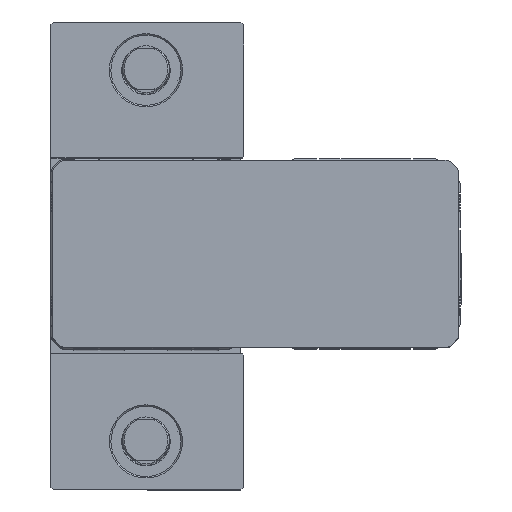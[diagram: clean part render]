
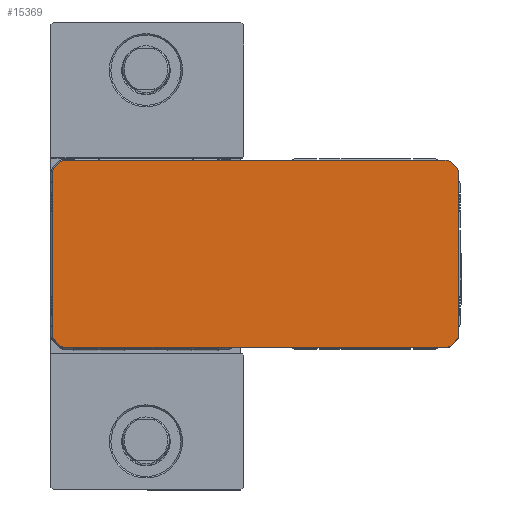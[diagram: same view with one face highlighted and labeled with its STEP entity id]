
A CAD part, top view. The second image highlights one B-rep face of the part: STEP entity #15369.
In plain terms, the highlighted planar face has unit normal (0, 0, 1).
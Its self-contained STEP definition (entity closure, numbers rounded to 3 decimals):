
#18 = LINE ( 'NONE', #3509, #16763 ) ;
#86 = EDGE_CURVE ( 'NONE', #1575, #42367, #3012, .T. ) ;
#681 = VECTOR ( 'NONE', #32685, 1000. ) ;
#783 = VERTEX_POINT ( 'NONE', #16246 ) ;
#801 = AXIS2_PLACEMENT_3D ( 'NONE', #23527, #2288, #27008 ) ;
#1082 = AXIS2_PLACEMENT_3D ( 'NONE', #8603, #8501, #8546 ) ;
#1575 = VERTEX_POINT ( 'NONE', #33461 ) ;
#1695 = DIRECTION ( 'NONE',  ( 0., 0., 1. ) ) ;
#2261 = DIRECTION ( 'NONE',  ( 0., -1., 0. ) ) ;
#2288 = DIRECTION ( 'NONE',  ( 0., 0., 1. ) ) ;
#3012 = CIRCLE ( 'NONE', #15297, 1.5 ) ;
#3509 = CARTESIAN_POINT ( 'NONE',  ( -31.561, -29.061, 394. ) ) ;
#3548 = EDGE_CURVE ( 'NONE', #3619, #12911, #21417, .T. ) ;
#3619 = VERTEX_POINT ( 'NONE', #4925 ) ;
#3734 = PLANE ( 'NONE',  #39313 ) ;
#4381 = ORIENTED_EDGE ( 'NONE', *, *, #12535, .T. ) ;
#4891 = VERTEX_POINT ( 'NONE', #13740 ) ;
#4925 = CARTESIAN_POINT ( 'NONE',  ( 107., 28., 394. ) ) ;
#5457 = DIRECTION ( 'NONE',  ( 1., 0., 0. ) ) ;
#5558 = DIRECTION ( 'NONE',  ( 0., 0., 1. ) ) ;
#5608 = CARTESIAN_POINT ( 'NONE',  ( -32., -28., 394. ) ) ;
#5615 = CARTESIAN_POINT ( 'NONE',  ( -28., 30.5, 394. ) ) ;
#5744 = EDGE_CURVE ( 'NONE', #11132, #19936, #17910, .T. ) ;
#5766 = CARTESIAN_POINT ( 'NONE',  ( 106.561, 29.061, 394. ) ) ;
#6290 = EDGE_CURVE ( 'NONE', #14093, #37704, #41189, .T. ) ;
#6797 = VERTEX_POINT ( 'NONE', #30756 ) ;
#6855 = AXIS2_PLACEMENT_3D ( 'NONE', #22951, #1695, #26432 ) ;
#7352 = DIRECTION ( 'NONE',  ( 1., 0., 0. ) ) ;
#7369 = DIRECTION ( 'NONE',  ( 1., 0., 0. ) ) ;
#7441 = CARTESIAN_POINT ( 'NONE',  ( -29.061, 31.561, 394. ) ) ;
#7502 = DIRECTION ( 'NONE',  ( 0., 0., 1. ) ) ;
#7595 = CARTESIAN_POINT ( 'NONE',  ( 103., -30.5, 394. ) ) ;
#7786 = VECTOR ( 'NONE', #8265, 1000. ) ;
#7812 = CARTESIAN_POINT ( 'NONE',  ( -30.5, -28., 394. ) ) ;
#8265 = DIRECTION ( 'NONE',  ( 0., 1., 0. ) ) ;
#8479 = ORIENTED_EDGE ( 'NONE', *, *, #3548, .T. ) ;
#8501 = DIRECTION ( 'NONE',  ( 0., 0., 1. ) ) ;
#8546 = DIRECTION ( 'NONE',  ( 1., 0., 0. ) ) ;
#8584 = CARTESIAN_POINT ( 'NONE',  ( 104.061, -31.561, 394. ) ) ;
#8603 = CARTESIAN_POINT ( 'NONE',  ( 105.5, 28., 394. ) ) ;
#9060 = CARTESIAN_POINT ( 'NONE',  ( 104.061, -31.561, 394. ) ) ;
#9092 = EDGE_LOOP ( 'NONE', ( #24443, #28965, #18408, #16675, #9683, #12904, #10905, #17298, #8479, #4381, #32750, #43715, #43597, #22090, #14715, #16229 ) ) ;
#9683 = ORIENTED_EDGE ( 'NONE', *, *, #37123, .T. ) ;
#10905 = ORIENTED_EDGE ( 'NONE', *, *, #34447, .T. ) ;
#10953 = LINE ( 'NONE', #16589, #37737 ) ;
#11132 = VERTEX_POINT ( 'NONE', #5608 ) ;
#11189 = DIRECTION ( 'NONE',  ( 1., 0., 0. ) ) ;
#11234 = LINE ( 'NONE', #8584, #37996 ) ;
#11755 = EDGE_CURVE ( 'NONE', #14655, #11132, #10953, .T. ) ;
#11932 = VERTEX_POINT ( 'NONE', #34857 ) ;
#12190 = EDGE_CURVE ( 'NONE', #11932, #4891, #39855, .T. ) ;
#12273 = FACE_OUTER_BOUND ( 'NONE', #9092, .T. ) ;
#12535 = EDGE_CURVE ( 'NONE', #12911, #11932, #32765, .T. ) ;
#12561 = CARTESIAN_POINT ( 'NONE',  ( 103., 30.5, 394. ) ) ;
#12904 = ORIENTED_EDGE ( 'NONE', *, *, #24291, .T. ) ;
#12911 = VERTEX_POINT ( 'NONE', #5766 ) ;
#13740 = CARTESIAN_POINT ( 'NONE',  ( 103., 32., 394. ) ) ;
#13781 = CIRCLE ( 'NONE', #24115, 1.5 ) ;
#14093 = VERTEX_POINT ( 'NONE', #20024 ) ;
#14626 = CARTESIAN_POINT ( 'NONE',  ( -28., -32., 394. ) ) ;
#14655 = VERTEX_POINT ( 'NONE', #20744 ) ;
#14715 = ORIENTED_EDGE ( 'NONE', *, *, #40403, .T. ) ;
#15291 = CARTESIAN_POINT ( 'NONE',  ( 103., 32., 394. ) ) ;
#15297 = AXIS2_PLACEMENT_3D ( 'NONE', #5615, #5558, #5457 ) ;
#15364 = DIRECTION ( 'NONE',  ( 1., 0., 0. ) ) ;
#15369 = ADVANCED_FACE ( 'NONE', ( #12273 ), #3734, .T. ) ;
#16113 = DIRECTION ( 'NONE',  ( 1., 0., 0. ) ) ;
#16162 = CIRCLE ( 'NONE', #6855, 1.5 ) ;
#16229 = ORIENTED_EDGE ( 'NONE', *, *, #11755, .T. ) ;
#16246 = CARTESIAN_POINT ( 'NONE',  ( -29.061, -31.561, 394. ) ) ;
#16589 = CARTESIAN_POINT ( 'NONE',  ( -32., 28., 394. ) ) ;
#16675 = ORIENTED_EDGE ( 'NONE', *, *, #6290, .T. ) ;
#16763 = VECTOR ( 'NONE', #31709, 1000. ) ;
#17298 = ORIENTED_EDGE ( 'NONE', *, *, #40812, .T. ) ;
#17382 = CIRCLE ( 'NONE', #33218, 1.5 ) ;
#17910 = CIRCLE ( 'NONE', #32599, 1.5 ) ;
#17926 = DIRECTION ( 'NONE',  ( -0.707, 0.707, 0. ) ) ;
#18138 = DIRECTION ( 'NONE',  ( -0.707, -0.707, 0. ) ) ;
#18408 = ORIENTED_EDGE ( 'NONE', *, *, #31353, .T. ) ;
#18563 = VECTOR ( 'NONE', #18138, 1000. ) ;
#18813 = CARTESIAN_POINT ( 'NONE',  ( 107., -28., 394. ) ) ;
#19000 = DIRECTION ( 'NONE',  ( 0., 0., 1. ) ) ;
#19664 = LINE ( 'NONE', #7441, #18563 ) ;
#19936 = VERTEX_POINT ( 'NONE', #38197 ) ;
#20024 = CARTESIAN_POINT ( 'NONE',  ( -28., -32., 394. ) ) ;
#20744 = CARTESIAN_POINT ( 'NONE',  ( -32., 28., 394. ) ) ;
#21417 = CIRCLE ( 'NONE', #1082, 1.5 ) ;
#21441 = CARTESIAN_POINT ( 'NONE',  ( 106.561, 29.061, 394. ) ) ;
#22090 = ORIENTED_EDGE ( 'NONE', *, *, #22418, .T. ) ;
#22329 = CARTESIAN_POINT ( 'NONE',  ( 106.561, -29.061, 394. ) ) ;
#22418 = EDGE_CURVE ( 'NONE', #42367, #6797, #19664, .T. ) ;
#22951 = CARTESIAN_POINT ( 'NONE',  ( -30.5, 28., 394. ) ) ;
#23527 = CARTESIAN_POINT ( 'NONE',  ( -28., -30.5, 394. ) ) ;
#24115 = AXIS2_PLACEMENT_3D ( 'NONE', #39784, #19000, #43168 ) ;
#24291 = EDGE_CURVE ( 'NONE', #35022, #31160, #11234, .T. ) ;
#24443 = ORIENTED_EDGE ( 'NONE', *, *, #5744, .T. ) ;
#26432 = DIRECTION ( 'NONE',  ( 1., 0., 0. ) ) ;
#27008 = DIRECTION ( 'NONE',  ( 1., 0., 0. ) ) ;
#27611 = CARTESIAN_POINT ( 'NONE',  ( 107., -28., 394. ) ) ;
#27950 = CARTESIAN_POINT ( 'NONE',  ( -29.061, 31.561, 394. ) ) ;
#28428 = DIRECTION ( 'NONE',  ( 0., 0., 1. ) ) ;
#28965 = ORIENTED_EDGE ( 'NONE', *, *, #39769, .T. ) ;
#30756 = CARTESIAN_POINT ( 'NONE',  ( -31.561, 29.061, 394. ) ) ;
#31160 = VERTEX_POINT ( 'NONE', #22329 ) ;
#31353 = EDGE_CURVE ( 'NONE', #783, #14093, #40388, .T. ) ;
#31709 = DIRECTION ( 'NONE',  ( 0.707, -0.707, 0. ) ) ;
#32159 = DIRECTION ( 'NONE',  ( 0., 0., 1. ) ) ;
#32599 = AXIS2_PLACEMENT_3D ( 'NONE', #7812, #7502, #7352 ) ;
#32667 = EDGE_CURVE ( 'NONE', #4891, #1575, #38089, .T. ) ;
#32685 = DIRECTION ( 'NONE',  ( -1., 0., 0. ) ) ;
#32750 = ORIENTED_EDGE ( 'NONE', *, *, #12190, .T. ) ;
#32765 = LINE ( 'NONE', #21441, #40877 ) ;
#33218 = AXIS2_PLACEMENT_3D ( 'NONE', #7595, #32159, #11189 ) ;
#33461 = CARTESIAN_POINT ( 'NONE',  ( -28., 32., 394. ) ) ;
#34447 = EDGE_CURVE ( 'NONE', #31160, #35194, #13781, .T. ) ;
#34857 = CARTESIAN_POINT ( 'NONE',  ( 104.061, 31.561, 394. ) ) ;
#35022 = VERTEX_POINT ( 'NONE', #9060 ) ;
#35194 = VERTEX_POINT ( 'NONE', #27611 ) ;
#36963 = DIRECTION ( 'NONE',  ( 0., 0., 1. ) ) ;
#37123 = EDGE_CURVE ( 'NONE', #37704, #35022, #17382, .T. ) ;
#37452 = AXIS2_PLACEMENT_3D ( 'NONE', #12561, #36963, #16113 ) ;
#37704 = VERTEX_POINT ( 'NONE', #39294 ) ;
#37737 = VECTOR ( 'NONE', #2261, 1000. ) ;
#37996 = VECTOR ( 'NONE', #40054, 1000. ) ;
#38089 = LINE ( 'NONE', #15291, #681 ) ;
#38197 = CARTESIAN_POINT ( 'NONE',  ( -31.561, -29.061, 394. ) ) ;
#39294 = CARTESIAN_POINT ( 'NONE',  ( 103., -32., 394. ) ) ;
#39313 = AXIS2_PLACEMENT_3D ( 'NONE', #42141, #28428, #7369 ) ;
#39769 = EDGE_CURVE ( 'NONE', #19936, #783, #18, .T. ) ;
#39784 = CARTESIAN_POINT ( 'NONE',  ( 105.5, -28., 394. ) ) ;
#39855 = CIRCLE ( 'NONE', #37452, 1.5 ) ;
#40054 = DIRECTION ( 'NONE',  ( 0.707, 0.707, 0. ) ) ;
#40142 = VECTOR ( 'NONE', #15364, 1000. ) ;
#40388 = CIRCLE ( 'NONE', #801, 1.5 ) ;
#40403 = EDGE_CURVE ( 'NONE', #6797, #14655, #16162, .T. ) ;
#40812 = EDGE_CURVE ( 'NONE', #35194, #3619, #42688, .T. ) ;
#40877 = VECTOR ( 'NONE', #17926, 1000. ) ;
#41189 = LINE ( 'NONE', #14626, #40142 ) ;
#42141 = CARTESIAN_POINT ( 'NONE',  ( -30.5, -28., 394. ) ) ;
#42367 = VERTEX_POINT ( 'NONE', #27950 ) ;
#42688 = LINE ( 'NONE', #18813, #7786 ) ;
#43168 = DIRECTION ( 'NONE',  ( 1., 0., 0. ) ) ;
#43597 = ORIENTED_EDGE ( 'NONE', *, *, #86, .T. ) ;
#43715 = ORIENTED_EDGE ( 'NONE', *, *, #32667, .T. ) ;
